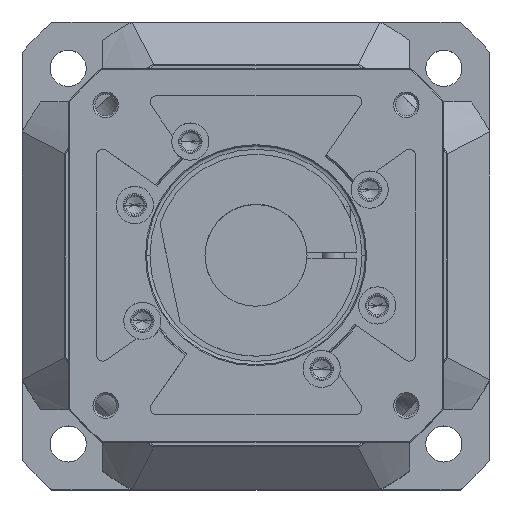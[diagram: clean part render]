
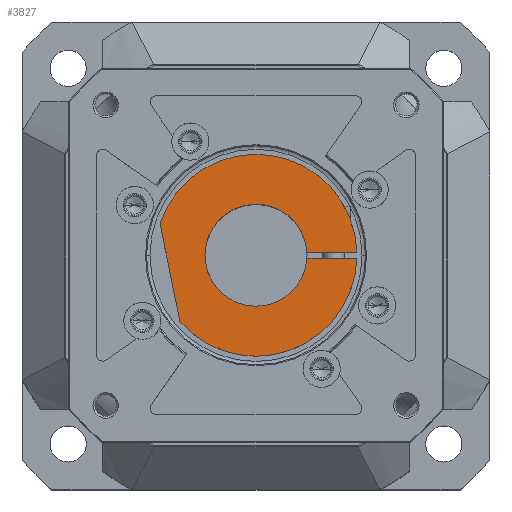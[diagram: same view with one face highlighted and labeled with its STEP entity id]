
A CAD part, top view. The second image highlights one B-rep face of the part: STEP entity #3827.
In plain terms, the highlighted planar face has unit normal (0, 0, 1) as drawn and (0, 1, 0) by its records, which use the part's own axes.
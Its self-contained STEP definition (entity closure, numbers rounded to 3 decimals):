
#2588=DIRECTION('',(0.98,0.,-0.199));
#2589=VECTOR('',#2588,46.963);
#2590=CARTESIAN_POINT('',(-31.211,173.5,-35.807));
#2591=LINE('',#2590,#2589);
#2592=DIRECTION('',(0.,0.,-1.));
#2593=VECTOR('',#2592,23.523);
#2594=CARTESIAN_POINT('',(1.5,173.5,47.476));
#2595=LINE('',#2594,#2593);
#2596=CARTESIAN_POINT('',(0.,173.5,0.));
#2597=DIRECTION('',(0.,1.,0.));
#2598=DIRECTION('',(0.063,0.,0.998));
#2599=AXIS2_PLACEMENT_3D('',#2596,#2597,#2598);
#2601=CARTESIAN_POINT('',(0.,173.5,0.));
#2602=DIRECTION('',(0.,-1.,0.));
#2603=DIRECTION('',(-0.063,0.,0.998));
#2604=AXIS2_PLACEMENT_3D('',#2601,#2602,#2603);
#2606=DIRECTION('',(0.,0.,-1.));
#2607=VECTOR('',#2606,23.523);
#2608=CARTESIAN_POINT('',(-1.5,173.5,47.476));
#2609=LINE('',#2608,#2607);
#2635=CARTESIAN_POINT('',(0.,173.5,0.));
#2636=DIRECTION('',(0.,1.,0.));
#2637=DIRECTION('',(0.032,0.,1.));
#2638=AXIS2_PLACEMENT_3D('',#2635,#2636,#2637);
#2640=CARTESIAN_POINT('',(0.,173.5,0.));
#2641=DIRECTION('',(0.,1.,0.));
#2642=DIRECTION('',(-0.657,0.,-0.754));
#2643=AXIS2_PLACEMENT_3D('',#2640,#2641,#2642);
#3332=CARTESIAN_POINT('',(0.,173.5,-24.));
#3334=VERTEX_POINT('',#3332);
#3347=CARTESIAN_POINT('',(1.5,173.5,23.953));
#3348=VERTEX_POINT('',#3347);
#3349=CARTESIAN_POINT('',(1.5,173.5,47.476));
#3350=VERTEX_POINT('',#3349);
#3351=CARTESIAN_POINT('',(-1.5,173.5,47.476));
#3352=CARTESIAN_POINT('',(-1.5,173.5,23.953));
#3353=VERTEX_POINT('',#3351);
#3354=VERTEX_POINT('',#3352);
#3419=CARTESIAN_POINT('',(-31.211,173.5,-35.807));
#3420=CARTESIAN_POINT('',(14.818,173.5,-45.13));
#3421=VERTEX_POINT('',#3419);
#3422=VERTEX_POINT('',#3420);
#3809=CARTESIAN_POINT('',(0.,173.5,0.));
#3810=DIRECTION('',(0.,1.,0.));
#3811=DIRECTION('',(0.,0.,-1.));
#3812=AXIS2_PLACEMENT_3D('',#3809,#3810,#3811);
#3813=PLANE('',#3812);
#3815=ORIENTED_EDGE('',*,*,#3814,.T.);
#3817=ORIENTED_EDGE('',*,*,#3816,.F.);
#3819=ORIENTED_EDGE('',*,*,#3818,.T.);
#3820=ORIENTED_EDGE('',*,*,#3761,.T.);
#3821=ORIENTED_EDGE('',*,*,#3776,.F.);
#3822=ORIENTED_EDGE('',*,*,#3790,.F.);
#3824=ORIENTED_EDGE('',*,*,#3823,.F.);
#3825=EDGE_LOOP('',(#3815,#3817,#3819,#3820,#3821,#3822,#3824));
#3826=FACE_OUTER_BOUND('',#3825,.F.);
#3827=ADVANCED_FACE('',(#3826),#3813,.T.);
#2600=CIRCLE('',#2599,24.);
#2605=CIRCLE('',#2604,24.);
#2639=CIRCLE('',#2638,47.5);
#2644=CIRCLE('',#2643,47.5);
#3761=EDGE_CURVE('',#3348,#3334,#2600,.T.);
#3776=EDGE_CURVE('',#3354,#3334,#2605,.T.);
#3790=EDGE_CURVE('',#3353,#3354,#2609,.T.);
#3814=EDGE_CURVE('',#3421,#3422,#2591,.T.);
#3816=EDGE_CURVE('',#3350,#3422,#2639,.T.);
#3818=EDGE_CURVE('',#3350,#3348,#2595,.T.);
#3823=EDGE_CURVE('',#3421,#3353,#2644,.T.);
